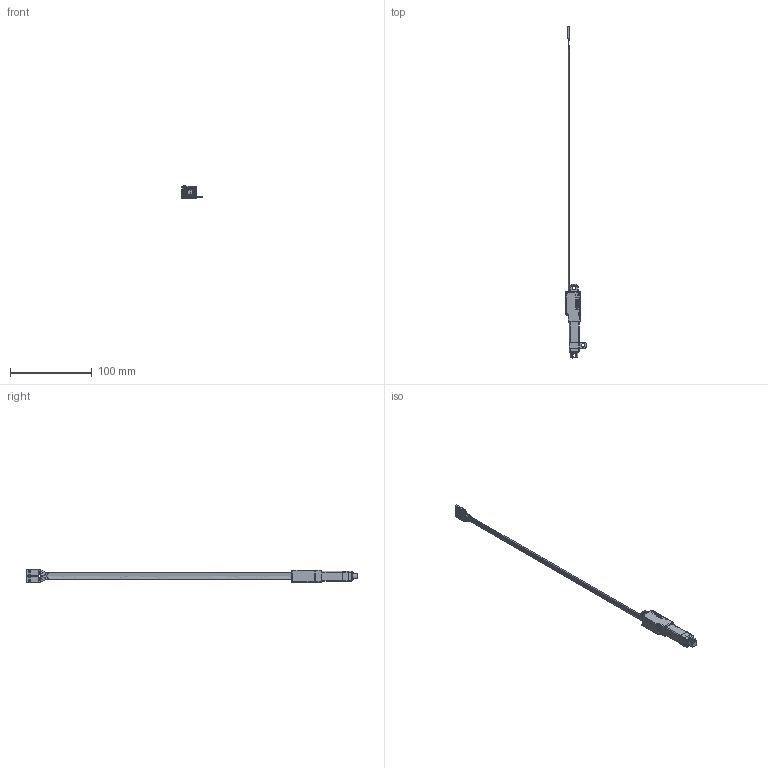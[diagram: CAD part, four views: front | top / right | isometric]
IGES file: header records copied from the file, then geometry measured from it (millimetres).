
Start section:  PTC IGES file: l12-30-i-ret.igs
Global section: file name: l12-30-i-ret.igs; native system: Pro/ENGINEER by Parametric Technology Corporation; preprocessor: 2004440; author: Mike Baker; organization: Unknown; date: 070504.092116; units: millimetre
Bounding box: 25.54 x 405.7 x 16.51 mm (x, y, z)
Volume: 9755.1 mm3; surface area: 17562.2 mm2
Topology: 5 solids, 5 shells, 1155 faces, 2854 edges, 1716 vertices
Faces by surface type: bspline 598, revolution 557
